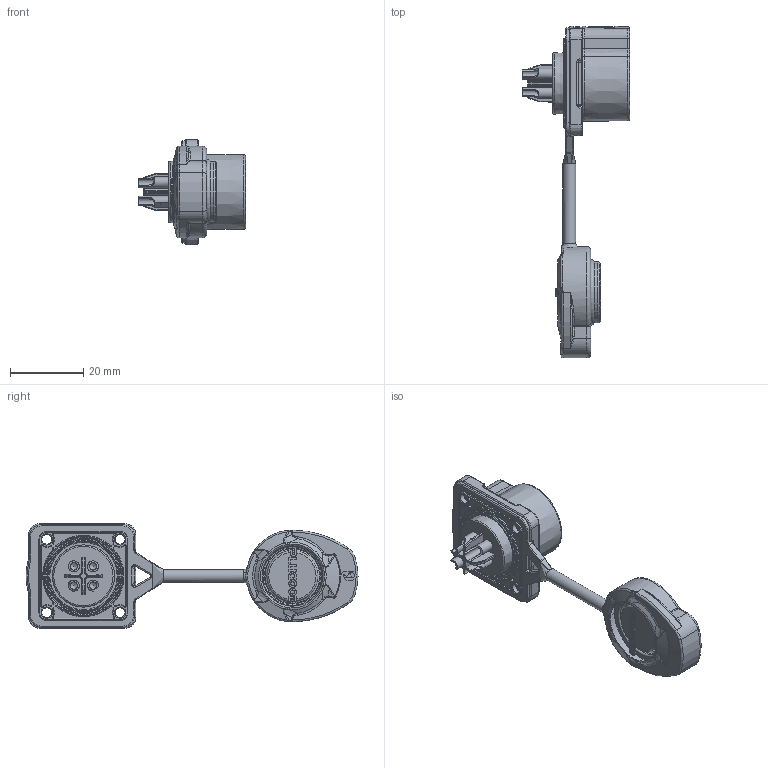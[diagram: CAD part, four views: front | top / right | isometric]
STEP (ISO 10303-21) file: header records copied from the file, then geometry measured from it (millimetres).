
FILE_DESCRIPTION (( 'STEP AP203' ), '1' );
FILE_NAME ('PLG16 4芯四孔插座反装石头图.STEP', '2026-04-11T08:48:54', ( '' ), ( '' ), 'SwSTEP 2.0', 'SolidWorks 2024', '' );
FILE_SCHEMA (( 'CONFIG_CONTROL_DESIGN' ));
Length unit declared in the file: millimetre
Products named in the file (1): PLG16 4芯四孔插座反装石头图
Bounding box: 29.2 x 90.57 x 28.5 mm (x, y, z)
Volume: 10326.8 mm3; surface area: 10265.3 mm2
Topology: 1 solids, 10 shells, 1272 faces, 3160 edges, 1944 vertices
Faces by surface type: cylinder 363, plane 352, bspline 249, torus 228, cone 67, sphere 13
Full cylindrical faces by diameter (mm): 1.061 x1, 1.9 x4, 2 x4, 2.088 x1, 2.1 x4, 2.7 x4, 3 x3, 3.3 x4, 3.5 x1, 6 x4, 13.3 x1, 13.9 x1, 16.7 x4, 17 x1, 18.4 x1, 19.6 x1, 21 x1
Entity records: 43928 total; most frequent: CARTESIAN_POINT 16214, ORIENTED_EDGE 6048, DIRECTION 5320, EDGE_CURVE 3024, AXIS2_PLACEMENT_3D 2126, VERTEX_POINT 1905, EDGE_LOOP 1419, FACE_OUTER_BOUND 1336
